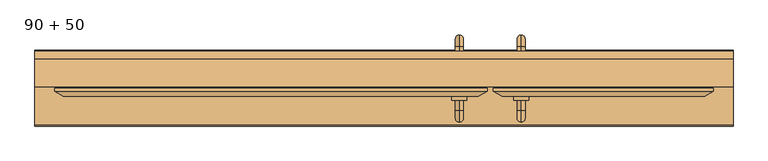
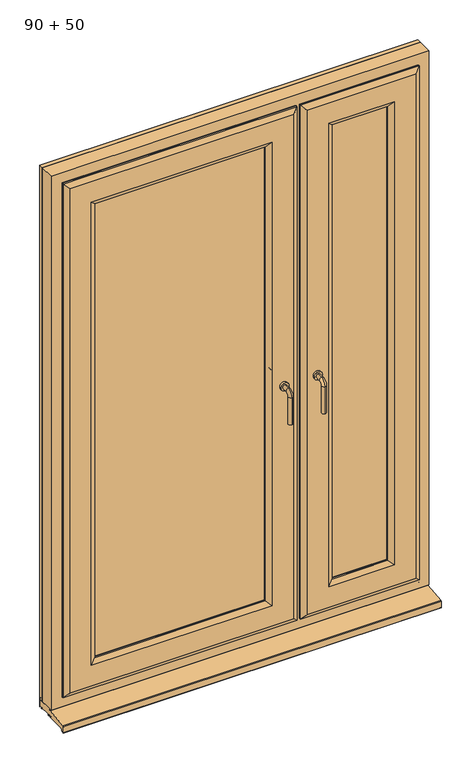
"""IFC4 building model written with IfcOpenShell, lengths in millimetres: door geometry, Door_Matrix 70_Double_Veka_Double Glazing_Outward Opening_Frame 67mm : 90 + 50."""

from ifc_helpers import new_model, si_unit, point, frame, frame_2d, origin, place, context, project, spatial, polyline, circle_curve, ellipse_curve, trimmed, segment, composite_curve, outline, extrude, faceted_brep, source, transform, mapped, element, save
from ifc_brep_helpers import plane_surface, cylinder_surface, revolved_surface, advanced_brep


def door_90_50_0fd4b594(model_context):
    return source(origin(), model_context, "Body", "SolidModel", [
        advanced_brep(
        [(271.0137838, -321.299346, 992.0), (271.0137838, -321.299346, 1008.0), (271.0137838, -341.299346, 1008.0), (271.0137838, -341.299346, 992.0), (271.0137838, -364.299346, 985.0), (271.0137838, -348.299346, 985.0), (271.0137838, -348.299346, 880.0), (271.0137838, -364.299346, 880.0)],
        [
            (0, 1, circle_curve(frame((271.0137838, -321.299346, 1000.0), z_axis=(0.0, 1.0, 0.0), x_axis=(0.0, 0.0, 1.0)), 8.0)),
            (1, 0, circle_curve(frame((271.0137838, -321.299346, 1000.0), z_axis=(0.0, 1.0, 0.0), x_axis=(0.0, 0.0, 1.0)), 8.0)),
            (1, 2),
            (2, 3, circle_curve(frame((271.0137838, -341.299346, 1000.0), z_axis=(0.0, 1.0, 0.0), x_axis=(0.0, 0.0, 1.0)), 8.0)),
            (3, 0),
            (3, 2, circle_curve(frame((271.0137838, -341.299346, 1000.0), z_axis=(0.0, 1.0, 0.0), x_axis=(0.0, 0.0, 1.0)), 8.0)),
            (4, 5, circle_curve(frame((271.0137838, -356.299346, 985.0), z_axis=(0.0, 0.0, 1.0), x_axis=(0.0, -1.0, 0.0)), 8.0)),
            (5, 3, circle_curve(frame((271.0137838, -341.299346, 985.0), z_axis=(-1.0, 0.0, 0.0), x_axis=(0.0, 0.0, 1.0)), 7.0)),
            (2, 4, circle_curve(frame((271.0137838, -341.299346, 985.0), z_axis=(1.0, 0.0, 0.0), x_axis=(0.0, 0.0, 1.0)), 23.0)),
            (5, 4, circle_curve(frame((271.0137838, -356.299346, 985.0), z_axis=(0.0, 0.0, 1.0), x_axis=(0.0, -1.0, 0.0)), 8.0)),
            (6, 7, circle_curve(frame((271.0137838, -356.299346, 880.0), z_axis=(0.0, 0.0, -1.0), x_axis=(0.0, -1.0, 0.0)), 8.0)),
            (7, 6, circle_curve(frame((271.0137838, -356.299346, 880.0), z_axis=(0.0, 0.0, -1.0), x_axis=(0.0, -1.0, 0.0)), 8.0)),
            (4, 7),
            (6, 5),
        ],
        [
            plane_surface(frame((271.0137838, -321.299346, 1000.0), z_axis=(0.0, 1.0, 0.0), x_axis=(1.0, 0.0, 0.0))),
            cylinder_surface(frame((271.0137838, -321.299346, 1000.0), z_axis=(0.0, 1.0, 0.0), x_axis=(0.0, 0.0, 1.0)), 8.0),
            revolved_surface(trimmed(ellipse_curve(frame((271.0137838, -341.299346, 1000.0), z_axis=(0.0, -1.0, 0.0), x_axis=(0.0, 0.0, 1.0)), 8.0, 8.0), [point((271.0137838, -341.299346, 992.0))], [point((271.0137838, -341.299346, 1008.0))], True, "CARTESIAN"), (271.0137838, -341.299346, 985.0), (-1.0, 0.0, 0.0)),
            revolved_surface(trimmed(ellipse_curve(frame((271.0137838, -341.299346, 1000.0), z_axis=(0.0, -1.0, 0.0), x_axis=(0.0, 0.0, 1.0)), 8.0, 8.0), [point((271.0137838, -341.299346, 1008.0))], [point((271.0137838, -341.299346, 992.0))], True, "CARTESIAN"), (271.0137838, -341.299346, 985.0), (-1.0, 0.0, 0.0)),
            plane_surface(frame((271.0137838, -356.299346, 880.0), z_axis=(0.0, 0.0, -1.0), x_axis=(1.0, 0.0, 0.0))),
            cylinder_surface(frame((271.0137838, -356.299346, 985.0), z_axis=(0.0, 0.0, 1.0), x_axis=(0.0, -1.0, 0.0)), 8.0),
        ],
        [
            (0, [[1, 2]]),
            (1, [[3, 4, 5, -2]]),
            (1, [[-5, 6, -3, -1]]),
            (2, [[7, 8, -4, 9]]),
            (3, [[10, -9, -6, -8]]),
            (4, [[11, 12]]),
            (5, [[13, -11, 14, -7]]),
            (5, [[-14, -12, -13, -10]]),
        ],
    ),
        extrude(outline(composite_curve([segment(trimmed(circle_curve(frame_2d((1000.0, 271.0000189)), 15.0), [point((1000.0, 256.0000189))], [point((1000.0, 286.0000189))], False, "CARTESIAN"), True, "CONTINUOUS"), segment(trimmed(circle_curve(frame_2d((1000.0, 271.0000189)), 15.0), [point((1000.0, 286.0000189))], [point((1000.0, 256.0000189))], False, "CARTESIAN"), True, "CONTINUOUS")], self_intersect=False)), frame((0.0, -321.299346, 0.0), z_axis=(0.0, 1.0, 0.0), x_axis=(0.0, 0.0, 1.0)), (0.0, 0.0, 1.0), 8.0),
        advanced_brep(
        [(148.9862162, -321.299346, 992.0), (148.9862162, -321.299346, 1008.0), (148.9862162, -341.299346, 992.0), (148.9862162, -341.299346, 1008.0), (148.9862162, -364.299346, 985.0), (148.9862162, -348.299346, 985.0), (148.9862162, -348.299346, 880.0), (148.9862162, -364.299346, 880.0)],
        [
            (0, 1, circle_curve(frame((148.9862162, -321.299346, 1000.0), z_axis=(0.0, 1.0, 0.0), x_axis=(0.0, 0.0, 1.0)), 8.0)),
            (1, 0, circle_curve(frame((148.9862162, -321.299346, 1000.0), z_axis=(0.0, 1.0, 0.0), x_axis=(0.0, 0.0, 1.0)), 8.0)),
            (0, 2),
            (2, 3, circle_curve(frame((148.9862162, -341.299346, 1000.0), z_axis=(0.0, 1.0, 0.0), x_axis=(0.0, 0.0, 1.0)), 8.0)),
            (3, 1),
            (3, 2, circle_curve(frame((148.9862162, -341.299346, 1000.0), z_axis=(0.0, 1.0, 0.0), x_axis=(0.0, 0.0, 1.0)), 8.0)),
            (4, 3, circle_curve(frame((148.9862162, -341.299346, 985.0), z_axis=(-1.0, 0.0, 0.0), x_axis=(0.0, 0.0, 1.0)), 23.0)),
            (2, 5, circle_curve(frame((148.9862162, -341.299346, 985.0), z_axis=(1.0, 0.0, 0.0), x_axis=(0.0, 0.0, 1.0)), 7.0)),
            (5, 4, circle_curve(frame((148.9862162, -356.299346, 985.0), z_axis=(0.0, 0.0, 1.0), x_axis=(0.0, -1.0, 0.0)), 8.0)),
            (4, 5, circle_curve(frame((148.9862162, -356.299346, 985.0), z_axis=(0.0, 0.0, 1.0), x_axis=(0.0, -1.0, 0.0)), 8.0)),
            (6, 7, circle_curve(frame((148.9862162, -356.299346, 880.0), z_axis=(0.0, 0.0, -1.0), x_axis=(0.0, -1.0, 0.0)), 8.0)),
            (7, 6, circle_curve(frame((148.9862162, -356.299346, 880.0), z_axis=(0.0, 0.0, -1.0), x_axis=(0.0, -1.0, 0.0)), 8.0)),
            (5, 6),
            (7, 4),
        ],
        [
            plane_surface(frame((148.9862162, -321.299346, 1000.0), z_axis=(0.0, 1.0, 0.0), x_axis=(-1.0, 0.0, 0.0))),
            cylinder_surface(frame((148.9862162, -321.299346, 1000.0), z_axis=(0.0, 1.0, 0.0), x_axis=(0.0, 0.0, 1.0)), 8.0),
            revolved_surface(trimmed(ellipse_curve(frame((148.9862162, -341.299346, 1000.0), z_axis=(0.0, 1.0, 0.0), x_axis=(0.0, 0.0, 1.0)), 8.0, 8.0), [point((148.9862162, -341.299346, 992.0))], [point((148.9862162, -341.299346, 1008.0))], True, "CARTESIAN"), (148.9862162, -341.299346, 985.0), (1.0, 0.0, 0.0)),
            revolved_surface(trimmed(ellipse_curve(frame((148.9862162, -341.299346, 1000.0), z_axis=(0.0, 1.0, 0.0), x_axis=(0.0, 0.0, 1.0)), 8.0, 8.0), [point((148.9862162, -341.299346, 1008.0))], [point((148.9862162, -341.299346, 992.0))], True, "CARTESIAN"), (148.9862162, -341.299346, 985.0), (1.0, 0.0, 0.0)),
            plane_surface(frame((148.9862162, -356.299346, 880.0), z_axis=(0.0, 0.0, -1.0), x_axis=(-1.0, 0.0, 0.0))),
            cylinder_surface(frame((148.9862162, -356.299346, 985.0), z_axis=(0.0, 0.0, 1.0), x_axis=(0.0, -1.0, 0.0)), 8.0),
        ],
        [
            (0, [[1, 2]]),
            (1, [[-1, 3, 4, 5]]),
            (1, [[-2, -5, 6, -3]]),
            (2, [[7, -4, 8, 9]]),
            (3, [[-8, -6, -7, 10]]),
            (4, [[11, 12]]),
            (5, [[-9, 13, -12, 14]]),
            (5, [[-10, -14, -11, -13]]),
        ],
    ),
        extrude(outline(composite_curve([segment(trimmed(circle_curve(frame_2d((1000.0, 148.9999811)), 15.0), [point((1000.0, 163.9999811))], [point((1000.0, 133.9999811))], False, "CARTESIAN"), True, "CONTINUOUS"), segment(trimmed(circle_curve(frame_2d((1000.0, 148.9999811)), 15.0), [point((1000.0, 133.9999811))], [point((1000.0, 163.9999811))], False, "CARTESIAN"), True, "CONTINUOUS")], self_intersect=False)), frame((0.0, -321.299346, 0.0), z_axis=(0.0, 1.0, 0.0), x_axis=(0.0, 0.0, 1.0)), (0.0, 0.0, 1.0), 8.0),
        extrude(outline(composite_curve([segment(polyline([(-222.0024185, 33.816203), (-222.0024185, 0.0), (-224.3, 0.0), (-224.3, 33.816203)]), True, "CONTINUOUS"), segment(trimmed(circle_curve(frame_2d((-223.1512093, 33.816203)), 1.1487907), [point((-224.3, 33.816203))], [point((-222.0024185, 33.816203))], False, "CARTESIAN"), True, "CONTINUOUS")], self_intersect=False)), frame((-690.0, 0.0, 0.0), z_axis=(1.0, 0.0, 0.0), x_axis=(0.0, 1.0, 0.0)), (0.0, 0.0, 1.0), 1380.0),
        extrude(outline(composite_curve([segment(polyline([(-224.3, 29.9684543), (-224.3, 6.7000049), (-233.2757908, 6.7000049)]), True, "CONTINUOUS"), segment(trimmed(circle_curve(frame_2d((-233.2757908, 5.8233683)), 0.8766367), [point((-233.2757908, 6.7000049))], [point((-234.1524275, 5.8233683))], True, "CARTESIAN"), True, "CONTINUOUS"), segment(polyline([(-234.1524275, 5.8233683), (-234.1524275, 3.0000022)]), True, "CONTINUOUS"), segment(trimmed(circle_curve(frame_2d((-233.6524271, 3.0000022)), 0.5000004), [point((-234.1524275, 3.0000022))], [point((-233.3734758, 2.5850485))], True, "CARTESIAN"), True, "CONTINUOUS"), segment(trimmed(circle_curve(frame_2d((-232.9640926, 1.9760709)), 0.7337904), [point((-233.3734758, 2.5850485))], [point((-232.4452245, 1.4572028))], False, "CARTESIAN"), True, "CONTINUOUS"), segment(polyline([(-232.4452245, 1.4572028), (-233.9024273, 0.0), (-236.4024291, 0.0), (-237.7944182, 1.3919891)]), True, "CONTINUOUS"), segment(trimmed(circle_curve(frame_2d((-237.2679893, 1.918418)), 0.7444829), [point((-237.7944182, 1.3919891))], [point((-236.899745, 2.5654504))], False, "CARTESIAN"), True, "CONTINUOUS"), segment(trimmed(circle_curve(frame_2d((-236.6524293, 3.0000022)), 0.5000004), [point((-236.899745, 2.5654504))], [point((-236.1524289, 3.0000022))], True, "CARTESIAN"), True, "CONTINUOUS"), segment(polyline([(-236.1524289, 3.0000022), (-236.1524289, 4.5391622)]), True, "CONTINUOUS"), segment(trimmed(circle_curve(frame_2d((-237.0132707, 4.5391622)), 0.8608418), [point((-236.1524289, 4.5391622))], [point((-237.0132707, 5.400004))], True, "CARTESIAN"), True, "CONTINUOUS"), segment(polyline([(-237.0132707, 5.400004), (-277.0735665, 5.400004)]), True, "CONTINUOUS"), segment(trimmed(circle_curve(frame_2d((-277.0735665, 4.6211108)), 0.7788932), [point((-277.0735665, 5.400004))], [point((-277.8524597, 4.6211108))], True, "CARTESIAN"), True, "CONTINUOUS"), segment(polyline([(-277.8524597, 4.6211108), (-277.8524597, 3.1794688)]), True, "CONTINUOUS"), segment(trimmed(circle_curve(frame_2d((-277.0799903, 3.1794688)), 0.7724695), [point((-277.8524597, 3.1794688))], [point((-276.8134107, 2.4544554))], True, "CARTESIAN"), True, "CONTINUOUS"), segment(trimmed(circle_curve(frame_2d((-276.6003795, 1.8750769)), 0.617302), [point((-276.8134107, 2.4544554))], [point((-276.163881, 1.4385785))], False, "CARTESIAN"), True, "CONTINUOUS"), segment(polyline([(-276.163881, 1.4385785), (-277.2024592, 0.4000003), (-280.5024617, 0.4000003), (-281.5410399, 1.4385785)]), True, "CONTINUOUS"), segment(trimmed(circle_curve(frame_2d((-281.1045415, 1.8750769)), 0.617302), [point((-281.5410399, 1.4385785))], [point((-280.8915102, 2.4544554))], False, "CARTESIAN"), True, "CONTINUOUS"), segment(trimmed(circle_curve(frame_2d((-280.6249307, 3.1794688)), 0.7724695), [point((-280.8915102, 2.4544554))], [point((-279.8524612, 3.1794688))], True, "CARTESIAN"), True, "CONTINUOUS"), segment(polyline([(-279.8524612, 3.1794688), (-279.8524612, 6.7000049), (-289.5524684, 6.7000049), (-289.5524684, 3.0000022)]), True, "CONTINUOUS"), segment(trimmed(circle_curve(frame_2d((-289.052468, 3.0000022)), 0.5000004), [point((-289.5524684, 3.0000022))], [point((-288.7735167, 2.5850485))], True, "CARTESIAN"), True, "CONTINUOUS"), segment(trimmed(circle_curve(frame_2d((-288.3641335, 1.9760709)), 0.7337904), [point((-288.7735167, 2.5850485))], [point((-287.8452654, 1.4572028))], False, "CARTESIAN"), True, "CONTINUOUS"), segment(polyline([(-287.8452654, 1.4572028), (-289.3024682, 0.0), (-360.3489876, 0.0), (-366.3174293, -9.7925766)]), True, "CONTINUOUS"), segment(trimmed(circle_curve(frame_2d((-367.4810103, -9.0833898)), 1.3626689), [point((-366.3174293, -9.7925766))], [point((-367.2238902, -10.4215811))], False, "CARTESIAN"), True, "CONTINUOUS"), segment(polyline([(-367.2238902, -10.4215811), (-371.0699977, -11.1605723)]), True, "CONTINUOUS"), segment(trimmed(circle_curve(frame_2d((-371.2180242, -10.3901624)), 0.7845019), [point((-371.0699977, -11.1605723))], [point((-372.0025262, -10.3901624))], False, "CARTESIAN"), True, "CONTINUOUS"), segment(polyline([(-372.0025262, -10.3901624), (-372.0025262, 13.6888513)]), True, "CONTINUOUS"), segment(trimmed(circle_curve(frame_2d((-369.5008157, 13.6888513)), 2.5017105), [point((-372.0025262, 13.6888513))], [point((-369.7623156, 16.1768571))], False, "CARTESIAN"), True, "CONTINUOUS"), segment(polyline([(-369.7623156, 16.1768571), (-288.6511996, 24.701979)]), True, "CONTINUOUS"), segment(trimmed(circle_curve(frame_2d((-288.8166581, 26.2762118)), 1.5829042), [point((-288.6511996, 24.701979))], [point((-287.2337539, 26.2762118))], True, "CARTESIAN"), True, "CONTINUOUS"), segment(polyline([(-287.2337539, 26.2762118), (-287.2337539, 28.1882095)]), True, "CONTINUOUS"), segment(trimmed(circle_curve(frame_2d((-285.4535091, 28.1882095)), 1.7802448), [point((-287.2337539, 28.1882095))], [point((-285.4535091, 29.9684543))], False, "CARTESIAN"), True, "CONTINUOUS"), segment(polyline([(-285.4535091, 29.9684543), (-224.3, 29.9684543)]), True, "CONTINUOUS")], self_intersect=False)), frame((-690.0, 0.0, 0.0), z_axis=(1.0, 0.0, 0.0), x_axis=(0.0, 1.0, 0.0)), (0.0, 0.0, 1.0), 1380.0),
        advanced_brep(
        [(271.0137838, -235.3000993, 992.0), (271.0137838, -235.3000993, 1008.0), (271.0137838, -215.3000993, 992.0), (271.0137838, -215.3000993, 1008.0), (271.0137838, -192.3000993, 985.0), (271.0137838, -208.3000993, 985.0), (271.0137838, -208.3000993, 880.0), (271.0137838, -192.3000993, 880.0)],
        [
            (0, 1, circle_curve(frame((271.0137838, -235.3000993, 1000.0), z_axis=(0.0, -1.0, 0.0), x_axis=(0.0, 0.0, 1.0)), 8.0)),
            (1, 0, circle_curve(frame((271.0137838, -235.3000993, 1000.0), z_axis=(0.0, -1.0, 0.0), x_axis=(0.0, 0.0, 1.0)), 8.0)),
            (0, 2),
            (2, 3, circle_curve(frame((271.0137838, -215.3000993, 1000.0), z_axis=(0.0, -1.0, 0.0), x_axis=(0.0, 0.0, 1.0)), 8.0)),
            (3, 1),
            (3, 2, circle_curve(frame((271.0137838, -215.3000993, 1000.0), z_axis=(0.0, -1.0, 0.0), x_axis=(0.0, 0.0, 1.0)), 8.0)),
            (4, 3, circle_curve(frame((271.0137838, -215.3000993, 985.0), z_axis=(1.0, 0.0, 0.0), x_axis=(0.0, 0.0, 1.0)), 23.0)),
            (2, 5, circle_curve(frame((271.0137838, -215.3000993, 985.0), z_axis=(-1.0, 0.0, 0.0), x_axis=(0.0, 0.0, 1.0)), 7.0)),
            (5, 4, circle_curve(frame((271.0137838, -200.3000993, 985.0), z_axis=(0.0, 0.0, 1.0), x_axis=(0.0, 1.0, 0.0)), 8.0)),
            (4, 5, circle_curve(frame((271.0137838, -200.3000993, 985.0), z_axis=(0.0, 0.0, 1.0), x_axis=(0.0, 1.0, 0.0)), 8.0)),
            (6, 7, circle_curve(frame((271.0137838, -200.3000993, 880.0), z_axis=(0.0, 0.0, -1.0), x_axis=(0.0, 1.0, 0.0)), 8.0)),
            (7, 6, circle_curve(frame((271.0137838, -200.3000993, 880.0), z_axis=(0.0, 0.0, -1.0), x_axis=(0.0, 1.0, 0.0)), 8.0)),
            (5, 6),
            (7, 4),
        ],
        [
            plane_surface(frame((271.0137838, -235.3000993, 1000.0), z_axis=(0.0, -1.0, 0.0), x_axis=(1.0, 0.0, 0.0))),
            cylinder_surface(frame((271.0137838, -235.3000993, 1000.0), z_axis=(0.0, -1.0, 0.0), x_axis=(0.0, 0.0, 1.0)), 8.0),
            revolved_surface(trimmed(ellipse_curve(frame((271.0137838, -215.3000993, 1000.0), z_axis=(0.0, -1.0, 0.0), x_axis=(0.0, 0.0, 1.0)), 8.0, 8.0), [point((271.0137838, -215.3000993, 992.0))], [point((271.0137838, -215.3000993, 1008.0))], True, "CARTESIAN"), (271.0137838, -215.3000993, 985.0), (-1.0, 0.0, 0.0)),
            revolved_surface(trimmed(ellipse_curve(frame((271.0137838, -215.3000993, 1000.0), z_axis=(0.0, -1.0, 0.0), x_axis=(0.0, 0.0, 1.0)), 8.0, 8.0), [point((271.0137838, -215.3000993, 1008.0))], [point((271.0137838, -215.3000993, 992.0))], True, "CARTESIAN"), (271.0137838, -215.3000993, 985.0), (-1.0, 0.0, 0.0)),
            plane_surface(frame((271.0137838, -200.3000993, 880.0), z_axis=(0.0, 0.0, -1.0), x_axis=(1.0, 0.0, 0.0))),
            cylinder_surface(frame((271.0137838, -200.3000993, 985.0), z_axis=(0.0, 0.0, 1.0), x_axis=(0.0, 1.0, 0.0)), 8.0),
        ],
        [
            (0, [[1, 2]]),
            (1, [[-1, 3, 4, 5]]),
            (1, [[-2, -5, 6, -3]]),
            (2, [[7, -4, 8, 9]]),
            (3, [[-8, -6, -7, 10]]),
            (4, [[11, 12]]),
            (5, [[-9, 13, -12, 14]]),
            (5, [[-10, -14, -11, -13]]),
        ],
    ),
        extrude(outline(composite_curve([segment(trimmed(circle_curve(frame_2d((1000.0, 271.0000189)), 15.0), [point((1000.0, 256.0000189))], [point((1000.0, 286.0000189))], False, "CARTESIAN"), True, "CONTINUOUS"), segment(trimmed(circle_curve(frame_2d((1000.0, 271.0000189)), 15.0), [point((1000.0, 286.0000189))], [point((1000.0, 256.0000189))], False, "CARTESIAN"), True, "CONTINUOUS")], self_intersect=False)), frame((0.0, -243.3000993, 0.0), z_axis=(0.0, 1.0, 0.0), x_axis=(0.0, 0.0, 1.0)), (0.0, 0.0, 1.0), 8.0),
        advanced_brep(
        [(148.9862162, -235.3000993, 992.0), (148.9862162, -235.3000993, 1008.0), (148.9862162, -215.3000993, 1008.0), (148.9862162, -215.3000993, 992.0), (148.9862162, -192.3000993, 985.0), (148.9862162, -208.3000993, 985.0), (148.9862162, -208.3000993, 880.0), (148.9862162, -192.3000993, 880.0)],
        [
            (0, 1, circle_curve(frame((148.9862162, -235.3000993, 1000.0), z_axis=(0.0, -1.0, 0.0), x_axis=(0.0, 0.0, 1.0)), 8.0)),
            (1, 0, circle_curve(frame((148.9862162, -235.3000993, 1000.0), z_axis=(0.0, -1.0, 0.0), x_axis=(0.0, 0.0, 1.0)), 8.0)),
            (1, 2),
            (2, 3, circle_curve(frame((148.9862162, -215.3000993, 1000.0), z_axis=(0.0, -1.0, 0.0), x_axis=(0.0, 0.0, 1.0)), 8.0)),
            (3, 0),
            (3, 2, circle_curve(frame((148.9862162, -215.3000993, 1000.0), z_axis=(0.0, -1.0, 0.0), x_axis=(0.0, 0.0, 1.0)), 8.0)),
            (4, 5, circle_curve(frame((148.9862162, -200.3000993, 985.0), z_axis=(0.0, 0.0, 1.0), x_axis=(0.0, 1.0, 0.0)), 8.0)),
            (5, 3, circle_curve(frame((148.9862162, -215.3000993, 985.0), z_axis=(1.0, 0.0, 0.0), x_axis=(0.0, 0.0, 1.0)), 7.0)),
            (2, 4, circle_curve(frame((148.9862162, -215.3000993, 985.0), z_axis=(-1.0, 0.0, 0.0), x_axis=(0.0, 0.0, 1.0)), 23.0)),
            (5, 4, circle_curve(frame((148.9862162, -200.3000993, 985.0), z_axis=(0.0, 0.0, 1.0), x_axis=(0.0, 1.0, 0.0)), 8.0)),
            (6, 7, circle_curve(frame((148.9862162, -200.3000993, 880.0), z_axis=(0.0, 0.0, -1.0), x_axis=(0.0, 1.0, 0.0)), 8.0)),
            (7, 6, circle_curve(frame((148.9862162, -200.3000993, 880.0), z_axis=(0.0, 0.0, -1.0), x_axis=(0.0, 1.0, 0.0)), 8.0)),
            (4, 7),
            (6, 5),
        ],
        [
            plane_surface(frame((148.9862162, -235.3000993, 1000.0), z_axis=(0.0, -1.0, 0.0), x_axis=(-1.0, 0.0, 0.0))),
            cylinder_surface(frame((148.9862162, -235.3000993, 1000.0), z_axis=(0.0, -1.0, 0.0), x_axis=(0.0, 0.0, 1.0)), 8.0),
            revolved_surface(trimmed(ellipse_curve(frame((148.9862162, -215.3000993, 1000.0), z_axis=(0.0, 1.0, 0.0), x_axis=(0.0, 0.0, 1.0)), 8.0, 8.0), [point((148.9862162, -215.3000993, 992.0))], [point((148.9862162, -215.3000993, 1008.0))], True, "CARTESIAN"), (148.9862162, -215.3000993, 985.0), (1.0, 0.0, 0.0)),
            revolved_surface(trimmed(ellipse_curve(frame((148.9862162, -215.3000993, 1000.0), z_axis=(0.0, 1.0, 0.0), x_axis=(0.0, 0.0, 1.0)), 8.0, 8.0), [point((148.9862162, -215.3000993, 1008.0))], [point((148.9862162, -215.3000993, 992.0))], True, "CARTESIAN"), (148.9862162, -215.3000993, 985.0), (1.0, 0.0, 0.0)),
            plane_surface(frame((148.9862162, -200.3000993, 880.0), z_axis=(0.0, 0.0, -1.0), x_axis=(-1.0, 0.0, 0.0))),
            cylinder_surface(frame((148.9862162, -200.3000993, 985.0), z_axis=(0.0, 0.0, 1.0), x_axis=(0.0, 1.0, 0.0)), 8.0),
        ],
        [
            (0, [[1, 2]]),
            (1, [[3, 4, 5, -2]]),
            (1, [[-5, 6, -3, -1]]),
            (2, [[7, 8, -4, 9]]),
            (3, [[10, -9, -6, -8]]),
            (4, [[11, 12]]),
            (5, [[13, -11, 14, -7]]),
            (5, [[-14, -12, -13, -10]]),
        ],
    ),
        extrude(outline(composite_curve([segment(trimmed(circle_curve(frame_2d((1000.0, 148.9999811)), 15.0), [point((1000.0, 163.9999811))], [point((1000.0, 133.9999811))], False, "CARTESIAN"), True, "CONTINUOUS"), segment(trimmed(circle_curve(frame_2d((1000.0, 148.9999811)), 15.0), [point((1000.0, 133.9999811))], [point((1000.0, 163.9999811))], False, "CARTESIAN"), True, "CONTINUOUS")], self_intersect=False)), frame((0.0, -243.3000993, 0.0), z_axis=(0.0, 1.0, 0.0), x_axis=(0.0, 0.0, 1.0)), (0.0, 0.0, 1.0), 8.0),
        faceted_brep([(183.9881749, -243.2991455, 2031.0118251), (183.9881749, -258.8001213, 2031.0118251), (183.9881749, -258.8001213, 89.0118251), (183.9881749, -243.2991455, 89.0118251), (-631.0118251, -258.8001213, 89.0118251), (-631.0118251, -243.2991455, 89.0118251), (-631.0118251, -258.8001213, 2031.0118251), (-631.0118251, -243.2991455, 2031.0118251), (108.9914124, -258.8001213, 164.0085876), (-556.0150626, -258.8001213, 164.0085876), (-556.0150626, -258.8001213, 1956.0150626), (108.9914124, -258.8001213, 1956.0150626), (108.9914124, -253.7759158, 1956.0150626), (108.9914124, -253.7759158, 164.0085876), (-556.0150626, -253.7759158, 164.0085876), (-556.0150626, -253.7759158, 1956.0150626), (106.4642035, -243.2991455, 1953.4878537), (-553.4878537, -243.2991455, 1953.4878537), (-553.4878537, -243.2991455, 166.5357965), (106.4642035, -243.2991455, 166.5357965), (88.965402, -257.9838124, 1935.9890521), (88.965402, -257.9838124, 184.034598), (88.965402, -266.3179487, 1935.9890521), (88.965402, -266.3179487, 184.034598), (96.4493794, -266.3179487, 1943.4730296), (96.4493794, -266.3179487, 176.5506206), (-535.9890521, -257.9838124, 184.034598), (-535.9890521, -266.3179487, 184.034598), (-543.4730296, -266.3179487, 176.5506206), (-535.9890521, -257.9838124, 1935.9890521), (-535.9890521, -266.3179487, 1935.9890521), (-543.4730296, -266.3179487, 1943.4730296)], [[[0, 1, 2, 3]], [[3, 2, 4, 5]], [[5, 4, 6, 7]], [[7, 6, 1, 0]], [[1, 6, 4, 2], [8, 9, 10, 11]], [[11, 12, 13, 8]], [[8, 13, 14, 9]], [[9, 14, 15, 10]], [[3, 5, 7, 0], [16, 17, 18, 19]], [[10, 15, 12, 11]], [[20, 16, 19, 21]], [[22, 20, 21, 23]], [[12, 24, 25, 13]], [[21, 19, 18, 26]], [[23, 21, 26, 27]], [[13, 25, 28, 14]], [[26, 18, 17, 29]], [[27, 26, 29, 30]], [[14, 28, 31, 15]], [[29, 17, 16, 20]], [[30, 29, 20, 22]], [[24, 31, 28, 25], [23, 27, 30, 22]], [[15, 31, 24, 12]]]),
        extrude(outline(polyline([(-550.9872592, -266.3254673), (103.963609, -266.3254673), (103.963609, -294.3372512), (-550.9872592, -294.3372512), (-550.9872592, -266.3254673)])), frame((0.0, 0.0, 169.0118251), z_axis=(0.0, 0.0, 1.0), x_axis=(1.0, 0.0, 0.0)), (0.0, 0.0, 1.0), 1782.0),
        extrude(outline(polyline([(1945.2402881, 98.2166379), (1945.2402881, -545.2402881), (174.7833621, -545.2402881), (174.7833621, 98.2166379), (1945.2402881, 98.2166379)]), holes=[polyline([(183.8000768, 89.1999232), (183.8000768, -536.2235734), (1936.2235734, -536.2235734), (1936.2235734, 89.1999232), (183.8000768, 89.1999232)])]), frame((0.0, -297.809191, 0.0), z_axis=(0.0, 1.0, 0.0), x_axis=(0.0, 0.0, 1.0)), (0.0, 0.0, 1.0), 3.4991592),
        extrude(outline(polyline([(2050.2706224, 203.2469722), (2050.2706224, -650.2706224), (69.7530278, -650.2706224), (69.7530278, 203.2469722), (2050.2706224, 203.2469722)]), holes=[polyline([(78.7697425, 194.2302575), (78.7697425, -641.2539077), (2041.2539077, -641.2539077), (2041.2539077, 194.2302575), (78.7697425, 194.2302575)])]), frame((0.0, -297.809346, 0.0), z_axis=(0.0, 1.0, 0.0), x_axis=(0.0, 0.0, 1.0)), (0.0, 0.0, 1.0), 3.4991592),
        extrude(outline(polyline([(2032.7580081, 185.7343579), (2032.7580081, -632.7580081), (87.2656421, -632.7580081), (87.2656421, 185.7343579), (2032.7580081, 185.7343579)]), holes=[polyline([(96.2823568, 176.7176432), (96.2823568, -623.7412934), (2023.7412934, -623.7412934), (2023.7412934, 176.7176432), (96.2823568, 176.7176432)])]), frame((0.0, -243.3132218, 0.0), z_axis=(0.0, 1.0, 0.0), x_axis=(0.0, 0.0, 1.0)), (0.0, 0.0, 1.0), 3.4991592),
        faceted_brep([(203.9898195, -303.1974346, 2051.0134697), (186.4905951, -313.3007268, 2033.5142453), (186.4905951, -313.3007268, 86.5094049), (203.9898195, -303.1974346, 69.0101805), (203.9898195, -297.8013505, 2051.0134697), (203.9898195, -297.8013505, 69.0101805), (183.9884985, -258.8001213, 2031.0121487), (183.9884985, -297.8013505, 2031.0121487), (183.9884985, -297.8013505, 89.0115015), (183.9884985, -258.8001213, 89.0115015), (-633.5142453, -313.3007268, 86.5094049), (-651.0134697, -303.1974346, 69.0101805), (-651.0134697, -297.8013505, 69.0101805), (-631.0121487, -297.8013505, 89.0115015), (-631.0121487, -258.8001213, 89.0115015), (-633.5142453, -313.3007268, 2033.5142453), (-651.0134697, -303.1974346, 2051.0134697), (-651.0134697, -297.8013505, 2051.0134697), (-631.0121487, -297.8013505, 2031.0121487), (-631.0121487, -258.8001213, 2031.0121487), (106.4422027, -313.3007268, 166.5577973), (-553.4658528, -313.3007268, 166.5577973), (-553.4658528, -313.3007268, 1953.4658528), (106.4422027, -313.3007268, 1953.4658528), (109.0017167, -297.8012564, 1956.0253669), (109.0017167, -258.8001213, 1956.0253669), (109.0017167, -258.8001213, 163.9982833), (109.0017167, -297.8012564, 163.9982833), (-556.0253669, -258.8001213, 163.9982833), (-556.0253669, -297.8012564, 163.9982833), (-556.0253669, -258.8001213, 1956.0253669), (-556.0253669, -297.8012564, 1956.0253669), (89.0003957, -303.2310558, 1936.0240459), (89.0003957, -297.8012564, 1936.0240459), (89.0003957, -297.8012564, 183.9996043), (89.0003957, -303.2310558, 183.9996043), (-536.0240459, -297.8012564, 183.9996043), (-536.0240459, -303.2310558, 183.9996043), (-536.0240459, -297.8012564, 1936.0240459), (-536.0240459, -303.2310558, 1936.0240459)], [[[0, 1, 2, 3]], [[4, 0, 3, 5]], [[6, 7, 8, 9]], [[3, 2, 10, 11]], [[5, 3, 11, 12]], [[9, 8, 13, 14]], [[11, 10, 15, 16]], [[12, 11, 16, 17]], [[14, 13, 18, 19]], [[16, 15, 1, 0]], [[17, 16, 0, 4]], [[5, 12, 17, 4], [7, 18, 13, 8]], [[19, 18, 7, 6]], [[1, 15, 10, 2], [20, 21, 22, 23]], [[24, 25, 26, 27]], [[27, 26, 28, 29]], [[29, 28, 30, 31]], [[9, 14, 19, 6], [25, 30, 28, 26]], [[31, 30, 25, 24]], [[32, 33, 34, 35]], [[35, 34, 36, 37]], [[37, 36, 38, 39]], [[39, 38, 33, 32]], [[23, 32, 35, 20]], [[20, 35, 37, 21]], [[21, 37, 39, 22]], [[27, 29, 31, 24], [33, 38, 36, 34]], [[22, 39, 32, 23]]]),
        faceted_brep([(631.0118251, -243.2991455, 2031.0118251), (631.0118251, -258.8001213, 2031.0118251), (631.0118251, -258.8001213, 89.0118251), (631.0118251, -243.2991455, 89.0118251), (236.0118251, -258.8001213, 89.0118251), (236.0118251, -243.2991455, 89.0118251), (236.0118251, -258.8001213, 2031.0118251), (236.0118251, -243.2991455, 2031.0118251), (556.0150626, -258.8001213, 164.0085876), (311.0085876, -258.8001213, 164.0085876), (311.0085876, -258.8001213, 1956.0150626), (556.0150626, -258.8001213, 1956.0150626), (556.0150626, -253.7759158, 1956.0150626), (556.0150626, -253.7759158, 164.0085876), (311.0085876, -253.7759158, 164.0085876), (311.0085876, -253.7759158, 1956.0150626), (553.4878537, -243.2991455, 1953.4878537), (313.5357965, -243.2991455, 1953.4878537), (313.5357965, -243.2991455, 166.5357965), (553.4878537, -243.2991455, 166.5357965), (535.9890521, -257.9838124, 1935.9890521), (535.9890521, -257.9838124, 184.034598), (535.9890521, -266.3179487, 1935.9890521), (535.9890521, -266.3179487, 184.034598), (543.4730296, -266.3179487, 1943.4730296), (543.4730296, -266.3179487, 176.5506206), (331.034598, -257.9838124, 184.034598), (331.034598, -266.3179487, 184.034598), (323.5506206, -266.3179487, 176.5506206), (331.034598, -257.9838124, 1935.9890521), (331.034598, -266.3179487, 1935.9890521), (323.5506206, -266.3179487, 1943.4730296)], [[[0, 1, 2, 3]], [[3, 2, 4, 5]], [[5, 4, 6, 7]], [[7, 6, 1, 0]], [[1, 6, 4, 2], [8, 9, 10, 11]], [[11, 12, 13, 8]], [[8, 13, 14, 9]], [[9, 14, 15, 10]], [[3, 5, 7, 0], [16, 17, 18, 19]], [[10, 15, 12, 11]], [[20, 16, 19, 21]], [[22, 20, 21, 23]], [[12, 24, 25, 13]], [[21, 19, 18, 26]], [[23, 21, 26, 27]], [[13, 25, 28, 14]], [[26, 18, 17, 29]], [[27, 26, 29, 30]], [[14, 28, 31, 15]], [[29, 17, 16, 20]], [[30, 29, 20, 22]], [[24, 31, 28, 25], [23, 27, 30, 22]], [[15, 31, 24, 12]]]),
        extrude(outline(polyline([(316.036391, -266.3254673), (550.9872592, -266.3254673), (550.9872592, -294.3372512), (316.036391, -294.3372512), (316.036391, -266.3254673)])), frame((0.0, 0.0, 169.0118251), z_axis=(0.0, 0.0, 1.0), x_axis=(1.0, 0.0, 0.0)), (0.0, 0.0, 1.0), 1782.0),
        extrude(outline(polyline([(1945.2402881, 545.2402881), (1945.2402881, 321.7833621), (174.7833621, 321.7833621), (174.7833621, 545.2402881), (1945.2402881, 545.2402881)]), holes=[polyline([(183.8000768, 536.2235734), (183.8000768, 330.8000768), (1936.2235734, 330.8000768), (1936.2235734, 536.2235734), (183.8000768, 536.2235734)])]), frame((0.0, -297.809191, 0.0), z_axis=(0.0, 1.0, 0.0), x_axis=(0.0, 0.0, 1.0)), (0.0, 0.0, 1.0), 3.4991592),
        extrude(outline(polyline([(2050.2706224, 650.2706224), (2050.2706224, 216.7530278), (69.7530278, 216.7530278), (69.7530278, 650.2706224), (2050.2706224, 650.2706224)]), holes=[polyline([(78.7697425, 641.2539077), (78.7697425, 225.7697425), (2041.2539077, 225.7697425), (2041.2539077, 641.2539077), (78.7697425, 641.2539077)])]), frame((0.0, -297.809346, 0.0), z_axis=(0.0, 1.0, 0.0), x_axis=(0.0, 0.0, 1.0)), (0.0, 0.0, 1.0), 3.4991592),
        extrude(outline(polyline([(2032.7580081, 632.7580081), (2032.7580081, 234.2656421), (87.2656421, 234.2656421), (87.2656421, 632.7580081), (2032.7580081, 632.7580081)]), holes=[polyline([(96.2823568, 623.7412934), (96.2823568, 243.2823568), (2023.7412934, 243.2823568), (2023.7412934, 623.7412934), (96.2823568, 623.7412934)])]), frame((0.0, -243.3132218, 0.0), z_axis=(0.0, 1.0, 0.0), x_axis=(0.0, 0.0, 1.0)), (0.0, 0.0, 1.0), 3.4991592),
        faceted_brep([(651.0134697, -303.1974346, 2051.0134697), (633.5142453, -313.3007268, 2033.5142453), (633.5142453, -313.3007268, 86.5094049), (651.0134697, -303.1974346, 69.0101805), (651.0134697, -297.8013505, 2051.0134697), (651.0134697, -297.8013505, 69.0101805), (631.0121487, -258.8001213, 2031.0121487), (631.0121487, -297.8013505, 2031.0121487), (631.0121487, -297.8013505, 89.0115015), (631.0121487, -258.8001213, 89.0115015), (233.5094049, -313.3007268, 86.5094049), (216.0101805, -303.1974346, 69.0101805), (216.0101805, -297.8013505, 69.0101805), (236.0115015, -297.8013505, 89.0115015), (236.0115015, -258.8001213, 89.0115015), (233.5094049, -313.3007268, 2033.5142453), (216.0101805, -303.1974346, 2051.0134697), (216.0101805, -297.8013505, 2051.0134697), (236.0115015, -297.8013505, 2031.0121487), (236.0115015, -258.8001213, 2031.0121487), (553.4658528, -313.3007268, 166.5577973), (313.5577973, -313.3007268, 166.5577973), (313.5577973, -313.3007268, 1953.4658528), (553.4658528, -313.3007268, 1953.4658528), (556.0253669, -297.8012564, 1956.0253669), (556.0253669, -258.8001213, 1956.0253669), (556.0253669, -258.8001213, 163.9982833), (556.0253669, -297.8012564, 163.9982833), (310.9982833, -258.8001213, 163.9982833), (310.9982833, -297.8012564, 163.9982833), (310.9982833, -258.8001213, 1956.0253669), (310.9982833, -297.8012564, 1956.0253669), (536.0240459, -303.2310558, 1936.0240459), (536.0240459, -297.8012564, 1936.0240459), (536.0240459, -297.8012564, 183.9996043), (536.0240459, -303.2310558, 183.9996043), (330.9996043, -297.8012564, 183.9996043), (330.9996043, -303.2310558, 183.9996043), (330.9996043, -297.8012564, 1936.0240459), (330.9996043, -303.2310558, 1936.0240459)], [[[0, 1, 2, 3]], [[4, 0, 3, 5]], [[6, 7, 8, 9]], [[3, 2, 10, 11]], [[5, 3, 11, 12]], [[9, 8, 13, 14]], [[11, 10, 15, 16]], [[12, 11, 16, 17]], [[14, 13, 18, 19]], [[16, 15, 1, 0]], [[17, 16, 0, 4]], [[5, 12, 17, 4], [7, 18, 13, 8]], [[19, 18, 7, 6]], [[1, 15, 10, 2], [20, 21, 22, 23]], [[24, 25, 26, 27]], [[27, 26, 28, 29]], [[29, 28, 30, 31]], [[9, 14, 19, 6], [25, 30, 28, 26]], [[31, 30, 25, 24]], [[32, 33, 34, 35]], [[35, 34, 36, 37]], [[37, 36, 38, 39]], [[39, 38, 33, 32]], [[23, 32, 35, 20]], [[20, 35, 37, 21]], [[21, 37, 39, 22]], [[27, 29, 31, 24], [33, 38, 36, 34]], [[22, 39, 32, 23]]]),
        faceted_brep([(220.9983546, -239.7984642, 2084.9624465), (198.9992513, -239.7984642, 2084.9624465), (198.9992513, -243.06822, 2084.9624465), (220.9983546, -243.06822, 2084.9624465), (198.9992513, -239.7984642, 35.0), (220.9983546, -239.7984642, 35.0), (220.9983546, -243.06822, 35.0), (198.9992513, -243.06822, 35.0), (690.0, -224.2980769, 30.0), (-690.0, -224.2980769, 30.0), (-690.0, -224.2980769, 2090.0), (690.0, -224.2980769, 2090.0), (193.4999653, -224.2980769, 2040.6351244), (-640.6340004, -224.2980769, 2040.6340004), (-640.6340004, -224.2980769, 79.3659996), (193.4999653, -224.2980769, 79.3648756), (226.4976406, -224.2980769, 79.3648756), (640.6340004, -224.2980769, 79.3659996), (640.6340004, -224.2980769, 2040.6340004), (226.4976406, -224.2980769, 2040.6351244), (243.9982232, -234.4011467, 2023.0001975), (243.998078, -234.4010629, 96.9999947), (243.998078, -239.7970422, 2023.0000053), (243.998078, -239.7970422, 96.9999947), (690.0, -239.7970422, 2090.0), (-690.0, -239.7970422, 2090.0), (-690.0, -239.7970422, 30.0), (690.0, -239.7970422, 30.0), (623.0000053, -239.7970422, 2023.0000053), (623.0000053, -239.7970422, 96.9999947), (-623.0000053, -239.7970422, 96.9999947), (-623.0000053, -239.7970422, 2023.0000053), (175.9995279, -239.7970422, 2023.0000053), (175.9995279, -239.7970422, 96.9999947), (175.9995279, -234.4010629, 2023.0000053), (175.9995279, -234.4010629, 96.9999947), (623.0000053, -234.4012568, 2023.0000053), (623.0000053, -234.4012568, 96.9999947), (-623.0000053, -234.4012568, 96.9999947), (-623.0000053, -234.4012568, 2023.0000053)], [[[0, 1, 2, 3]], [[4, 5, 6, 7]], [[8, 9, 10, 11], [12, 13, 14, 15], [16, 17, 18, 19]], [[19, 20, 21, 16]], [[20, 22, 23, 21]], [[24, 25, 26, 27], [22, 28, 29, 23], [30, 31, 32, 33], [0, 5, 4, 1]], [[3, 6, 5, 0]], [[2, 7, 6, 3]], [[4, 7, 2, 1]], [[32, 34, 35, 33]], [[15, 35, 34, 12]], [[36, 37, 29, 28]], [[36, 18, 17, 37]], [[24, 27, 8, 11]], [[30, 33, 35, 38]], [[37, 21, 23, 29]], [[17, 16, 21, 37]], [[38, 35, 15, 14]], [[27, 26, 9, 8]], [[38, 39, 31, 30]], [[14, 13, 39, 38]], [[26, 25, 10, 9]], [[28, 22, 20, 36]], [[39, 34, 32, 31]], [[13, 12, 34, 39]], [[36, 20, 19, 18]], [[11, 10, 25, 24]]]),
        faceted_brep([(690.0, -294.2961568, 2090.0), (-690.0, -294.2961568, 2090.0), (-690.0, -294.2961568, 30.0), (690.0, -294.2961568, 30.0), (222.5812807, -294.2961568, 2042.9916188), (642.9916188, -294.2961568, 2042.9916188), (642.9916188, -294.2961568, 77.0083812), (222.5812807, -294.2961568, 77.0083812), (197.5561971, -294.2961568, 77.0083812), (-642.9916188, -294.2961568, 77.0083812), (-642.9916188, -294.2961568, 2042.9916188), (197.5561971, -294.2961568, 2042.9916188), (197.5561971, -243.0667351, 2042.9916188), (197.5561971, -243.0667351, 77.0083812), (222.5812807, -243.0667351, 2042.9916188), (222.5812807, -243.0667351, 77.0083812), (642.9916188, -239.8328407, 2042.9916188), (642.9916188, -239.8328407, 77.0083812), (690.0, -239.8328407, 30.0), (690.0, -239.8328407, 2090.0), (-642.9916188, -239.8328407, 77.0083812), (-690.0, -239.8328407, 30.0), (-642.9916188, -239.8328407, 2042.9916188), (-690.0, -239.8328407, 2090.0)], [[[0, 1, 2, 3], [4, 5, 6, 7], [8, 9, 10, 11]], [[11, 12, 13, 8]], [[12, 14, 15, 13]], [[7, 15, 14, 4]], [[16, 17, 6, 5]], [[0, 3, 18, 19]], [[17, 20, 9, 8, 13, 15, 7, 6]], [[3, 2, 21, 18]], [[20, 22, 10, 9]], [[2, 1, 23, 21]], [[5, 4, 14, 12, 11, 10, 22, 16]], [[18, 21, 23, 19], [16, 22, 20, 17]], [[19, 23, 1, 0]]]),
    ])


if __name__ == "__main__":
    model = new_model("IFC4")
    model_context = context("Model", 3, world=origin())
    ifc_project = project(units=[si_unit("LENGTHUNIT", "METRE", prefix="MILLI")], contexts=[model_context])
    site = spatial("IfcSite", under=ifc_project)
    building = spatial("IfcBuilding", under=site)
    placement = place(None, origin())
    door_90_50_shape = door_90_50_0fd4b594(model_context)
    element("IfcDoor", 1, ObjectType="Door_Matrix 70_Double_Veka_Double Glazing_Outward Opening_Frame 67mm : 90 + 50", at=placement, inside=building, context=model_context, shape_type="MappedRepresentation", body=[
        mapped(door_90_50_shape, transform((0.0, 0.0, 0.0), x_axis=(1.0, 0.0, 0.0), y_axis=(0.0, 1.0, 0.0), z_axis=(0.0, 0.0, 1.0))),
    ])
    save(model, "model.ifc")
